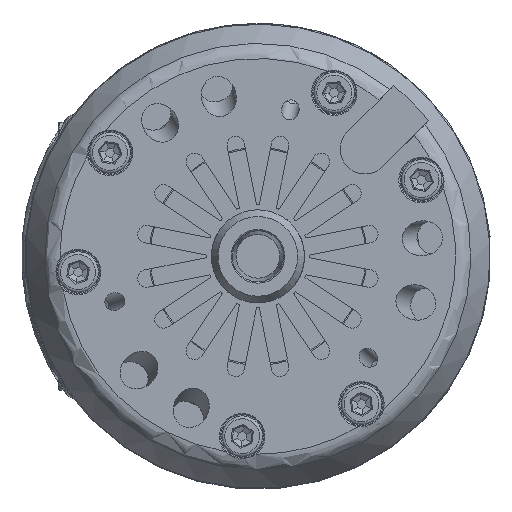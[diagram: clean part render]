
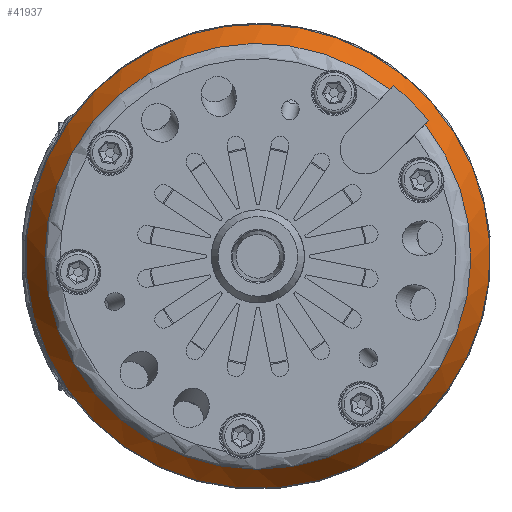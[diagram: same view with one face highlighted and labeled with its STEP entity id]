
A CAD part, front view. The second image highlights one B-rep face of the part: STEP entity #41937.
In plain terms, the highlighted conical face has half-angle 30 degrees and reference radius 36.566 mm.
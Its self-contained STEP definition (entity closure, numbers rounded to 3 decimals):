
#234 = CARTESIAN_POINT ( 'NONE',  ( 28.686, -17.7, 22.676 ) ) ;
#550 = CARTESIAN_POINT ( 'NONE',  ( 0., -17.7, 0. ) ) ;
#2544 = CARTESIAN_POINT ( 'NONE',  ( 29.303, -16.2, 23.292 ) ) ;
#3565 = VERTEX_POINT ( 'NONE', #29587 ) ;
#4057 = FACE_OUTER_BOUND ( 'NONE', #17905, .T. ) ;
#4474 = CIRCLE ( 'NONE', #29792, 37.432 ) ;
#6229 = ORIENTED_EDGE ( 'NONE', *, *, #39863, .F. ) ;
#7129 = CARTESIAN_POINT ( 'NONE',  ( 29.303, -16.2, 23.292 ) ) ;
#7376 = EDGE_LOOP ( 'NONE', ( #6229, #50830, #24917, #46937 ) ) ;
#9535 = DIRECTION ( 'NONE',  ( 0., -1., 0. ) ) ;
#11451 = CARTESIAN_POINT ( 'NONE',  ( 28.19, -11.984, -28.19 ) ) ;
#11540 = CARTESIAN_POINT ( 'NONE',  ( 29.097, -16.7, 23.087 ) ) ;
#12157 = VERTEX_POINT ( 'NONE', #234 ) ;
#14427 = VERTEX_POINT ( 'NONE', #2544 ) ;
#15761 = CIRCLE ( 'NONE', #25113, 36.566 ) ;
#16507 = ORIENTED_EDGE ( 'NONE', *, *, #19794, .T. ) ;
#17824 = FACE_BOUND ( 'NONE', #7376, .T. ) ;
#17905 = EDGE_LOOP ( 'NONE', ( #16507 ) ) ;
#18453 = DIRECTION ( 'NONE',  ( 0.707, 0., -0.707 ) ) ;
#19332 = DIRECTION ( 'NONE',  ( 0., -1., 0. ) ) ;
#19785 = CARTESIAN_POINT ( 'NONE',  ( 0., -17.7, 0. ) ) ;
#19794 = EDGE_CURVE ( 'NONE', #38387, #38387, #24715, .T. ) ;
#19893 = CARTESIAN_POINT ( 'NONE',  ( 23.292, -16.2, 29.303 ) ) ;
#24715 = CIRCLE ( 'NONE', #32197, 39.866 ) ;
#24917 = ORIENTED_EDGE ( 'NONE', *, *, #28231, .F. ) ;
#25113 = AXIS2_PLACEMENT_3D ( 'NONE', #19785, #9535, #41459 ) ;
#27249 = CARTESIAN_POINT ( 'NONE',  ( 0., -11.984, 0. ) ) ;
#27630 = EDGE_CURVE ( 'NONE', #55250, #12157, #15761, .T. ) ;
#28231 = EDGE_CURVE ( 'NONE', #12157, #14427, #40264, .T. ) ;
#29587 = CARTESIAN_POINT ( 'NONE',  ( 23.292, -16.2, 29.303 ) ) ;
#29792 = AXIS2_PLACEMENT_3D ( 'NONE', #32340, #45495, #41696 ) ;
#32197 = AXIS2_PLACEMENT_3D ( 'NONE', #27249, #19332, #18453 ) ;
#32340 = CARTESIAN_POINT ( 'NONE',  ( 0., -16.2, 0. ) ) ;
#33455 = AXIS2_PLACEMENT_3D ( 'NONE', #550, #35696, #53558 ) ;
#33517 = CARTESIAN_POINT ( 'NONE',  ( 28.892, -17.2, 22.881 ) ) ;
#33956 = CARTESIAN_POINT ( 'NONE',  ( 23.087, -16.7, 29.097 ) ) ;
#35696 = DIRECTION ( 'NONE',  ( 0., 1., 0. ) ) ;
#37742 = CARTESIAN_POINT ( 'NONE',  ( 22.881, -17.2, 28.892 ) ) ;
#38124 = CONICAL_SURFACE ( 'NONE', #33455, 36.566, 0.524 ) ;
#38387 = VERTEX_POINT ( 'NONE', #11451 ) ;
#39863 = EDGE_CURVE ( 'NONE', #3565, #55250, #45779, .T. ) ;
#40264 = B_SPLINE_CURVE_WITH_KNOTS ( 'NONE', 3,
 ( #46987, #33517, #11540, #7129 ),
 .UNSPECIFIED., .F., .F.,
 ( 4, 4 ),
 ( 0.026, 0.027 ),
 .UNSPECIFIED. ) ;
#41459 = DIRECTION ( 'NONE',  ( 0.707, 0., -0.707 ) ) ;
#41696 = DIRECTION ( 'NONE',  ( 0.707, 0., -0.707 ) ) ;
#41937 = ADVANCED_FACE ( 'NONE', ( #4057, #17824 ), #38124, .T. ) ;
#42708 = CARTESIAN_POINT ( 'NONE',  ( 22.676, -17.7, 28.686 ) ) ;
#43635 = CARTESIAN_POINT ( 'NONE',  ( 22.676, -17.7, 28.686 ) ) ;
#45495 = DIRECTION ( 'NONE',  ( 0., 1., 0. ) ) ;
#45779 = B_SPLINE_CURVE_WITH_KNOTS ( 'NONE', 3,
 ( #19893, #33956, #37742, #42708 ),
 .UNSPECIFIED., .F., .F.,
 ( 4, 4 ),
 ( 0.024, 0.025 ),
 .UNSPECIFIED. ) ;
#46937 = ORIENTED_EDGE ( 'NONE', *, *, #27630, .F. ) ;
#46987 = CARTESIAN_POINT ( 'NONE',  ( 28.686, -17.7, 22.676 ) ) ;
#50830 = ORIENTED_EDGE ( 'NONE', *, *, #56638, .T. ) ;
#53558 = DIRECTION ( 'NONE',  ( -0.707, 0., 0.707 ) ) ;
#55250 = VERTEX_POINT ( 'NONE', #43635 ) ;
#56638 = EDGE_CURVE ( 'NONE', #3565, #14427, #4474, .T. ) ;
